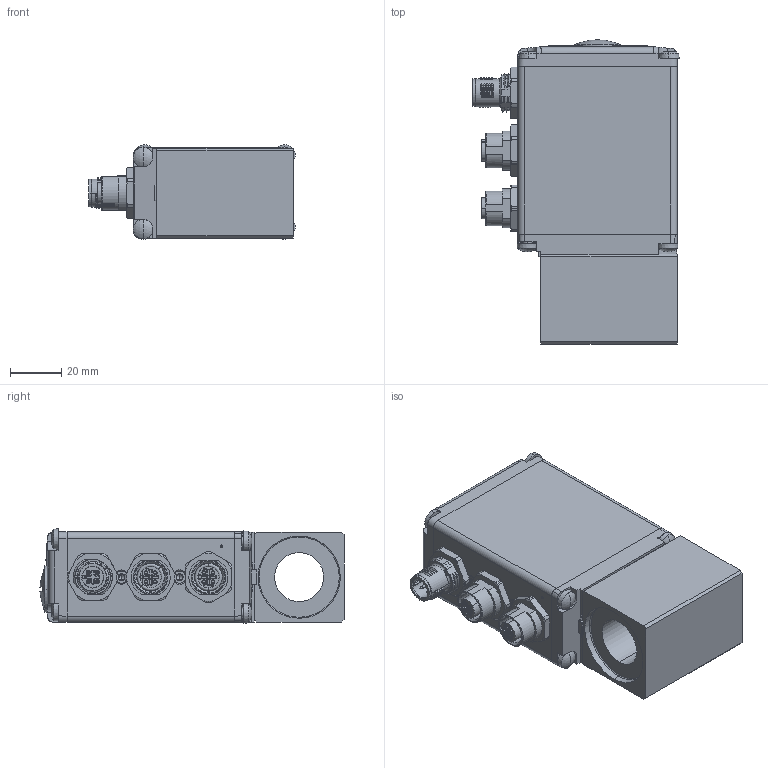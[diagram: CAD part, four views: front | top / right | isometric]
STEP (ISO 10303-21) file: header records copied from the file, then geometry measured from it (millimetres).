
FILE_DESCRIPTION (( 'STEP AP214' ), '1' );
FILE_NAME ('ME35_19x50-...P.R.STEP', '2014-04-03T07:02:46', ( '' ), ( '' ), 'SwSTEP 2.0', 'SolidWorks 2012', '' );
FILE_SCHEMA (( 'AUTOMOTIVE_DESIGN' ));
Length unit declared in the file: millimetre
Products named in the file (1): ME35_19x50-...P.R
Bounding box: 80.3 x 118.39 x 36.78 mm (x, y, z)
Volume: 137417.6 mm3; surface area: 53825.4 mm2
Topology: 4 solids, 4 shells, 2780 faces, 7664 edges, 4972 vertices
Faces by surface type: plane 1547, cylinder 752, torus 215, cone 172, bspline 65, sphere 29
Entity records: 97425 total; most frequent: CARTESIAN_POINT 22968, ORIENTED_EDGE 15292, DIRECTION 13669, EDGE_CURVE 7646, VERTEX_POINT 4972, VECTOR 4959, LINE 4959, AXIS2_PLACEMENT_3D 4355
